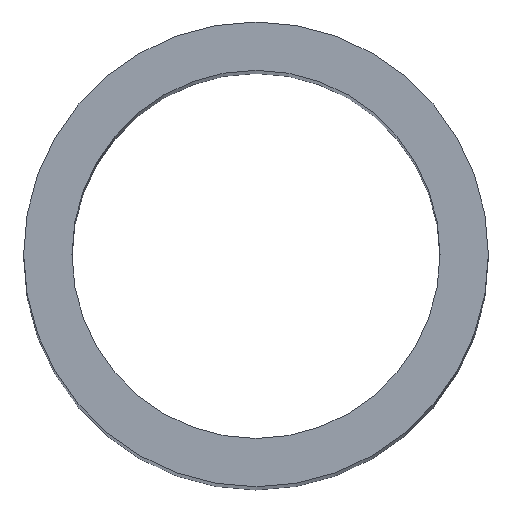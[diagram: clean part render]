
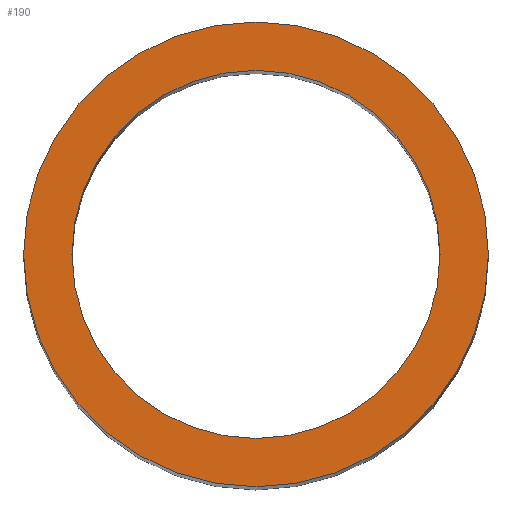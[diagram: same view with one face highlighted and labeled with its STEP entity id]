
A CAD part, top view. The second image highlights one B-rep face of the part: STEP entity #190.
In plain terms, the highlighted planar face has unit normal (0, 0, 1).
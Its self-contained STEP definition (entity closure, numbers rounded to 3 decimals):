
#24 = VERTEX_POINT('',#25);
#25 = CARTESIAN_POINT('',(2.525,0.,20.));
#32 = CYLINDRICAL_SURFACE('',#33,2.525);
#33 = AXIS2_PLACEMENT_3D('',#34,#35,#36);
#34 = CARTESIAN_POINT('',(0.,0.,0.));
#35 = DIRECTION('',(-0.,-0.,-1.));
#36 = DIRECTION('',(1.,0.,0.));
#51 = EDGE_CURVE('',#24,#24,#52,.T.);
#52 = SURFACE_CURVE('',#53,(#58,#65),.PCURVE_S1.);
#53 = CIRCLE('',#54,2.525);
#54 = AXIS2_PLACEMENT_3D('',#55,#56,#57);
#55 = CARTESIAN_POINT('',(0.,0.,20.));
#56 = DIRECTION('',(0.,0.,1.));
#57 = DIRECTION('',(1.,0.,0.));
#58 = PCURVE('',#32,#59);
#59 = DEFINITIONAL_REPRESENTATION('',(#60),#64);
#60 = LINE('',#61,#62);
#61 = CARTESIAN_POINT('',(-0.,-20.));
#62 = VECTOR('',#63,1.);
#63 = DIRECTION('',(-1.,0.));
#64 = ( GEOMETRIC_REPRESENTATION_CONTEXT(2) 
PARAMETRIC_REPRESENTATION_CONTEXT() REPRESENTATION_CONTEXT('2D SPACE',''
  ) );
#65 = PCURVE('',#66,#71);
#66 = PLANE('',#67);
#67 = AXIS2_PLACEMENT_3D('',#68,#69,#70);
#68 = CARTESIAN_POINT('',(0.,0.,20.));
#69 = DIRECTION('',(0.,0.,1.));
#70 = DIRECTION('',(1.,0.,-0.));
#71 = DEFINITIONAL_REPRESENTATION('',(#72),#76);
#72 = CIRCLE('',#73,2.525);
#73 = AXIS2_PLACEMENT_2D('',#74,#75);
#74 = CARTESIAN_POINT('',(0.,0.));
#75 = DIRECTION('',(1.,0.));
#76 = ( GEOMETRIC_REPRESENTATION_CONTEXT(2) 
PARAMETRIC_REPRESENTATION_CONTEXT() REPRESENTATION_CONTEXT('2D SPACE',''
  ) );
#112 = VERTEX_POINT('',#113);
#113 = CARTESIAN_POINT('',(2.,0.,20.));
#120 = CYLINDRICAL_SURFACE('',#121,2.);
#121 = AXIS2_PLACEMENT_3D('',#122,#123,#124);
#122 = CARTESIAN_POINT('',(0.,0.,0.));
#123 = DIRECTION('',(-0.,-0.,-1.));
#124 = DIRECTION('',(1.,0.,0.));
#139 = EDGE_CURVE('',#112,#112,#140,.T.);
#140 = SURFACE_CURVE('',#141,(#146,#153),.PCURVE_S1.);
#141 = CIRCLE('',#142,2.);
#142 = AXIS2_PLACEMENT_3D('',#143,#144,#145);
#143 = CARTESIAN_POINT('',(0.,0.,20.));
#144 = DIRECTION('',(0.,0.,1.));
#145 = DIRECTION('',(1.,0.,0.));
#146 = PCURVE('',#120,#147);
#147 = DEFINITIONAL_REPRESENTATION('',(#148),#152);
#148 = LINE('',#149,#150);
#149 = CARTESIAN_POINT('',(-0.,-20.));
#150 = VECTOR('',#151,1.);
#151 = DIRECTION('',(-1.,0.));
#152 = ( GEOMETRIC_REPRESENTATION_CONTEXT(2) 
PARAMETRIC_REPRESENTATION_CONTEXT() REPRESENTATION_CONTEXT('2D SPACE',''
  ) );
#153 = PCURVE('',#66,#154);
#154 = DEFINITIONAL_REPRESENTATION('',(#155),#159);
#155 = CIRCLE('',#156,2.);
#156 = AXIS2_PLACEMENT_2D('',#157,#158);
#157 = CARTESIAN_POINT('',(0.,0.));
#158 = DIRECTION('',(1.,0.));
#159 = ( GEOMETRIC_REPRESENTATION_CONTEXT(2) 
PARAMETRIC_REPRESENTATION_CONTEXT() REPRESENTATION_CONTEXT('2D SPACE',''
  ) );
#190 = ADVANCED_FACE('',(#191,#194),#66,.T.);
#191 = FACE_BOUND('',#192,.T.);
#192 = EDGE_LOOP('',(#193));
#193 = ORIENTED_EDGE('',*,*,#51,.T.);
#194 = FACE_BOUND('',#195,.T.);
#195 = EDGE_LOOP('',(#196));
#196 = ORIENTED_EDGE('',*,*,#139,.F.);
